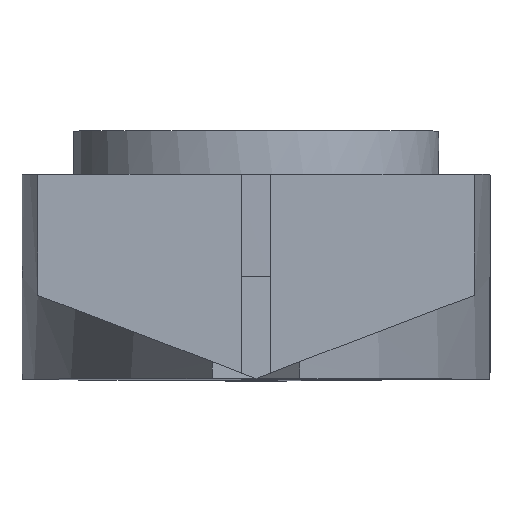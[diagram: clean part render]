
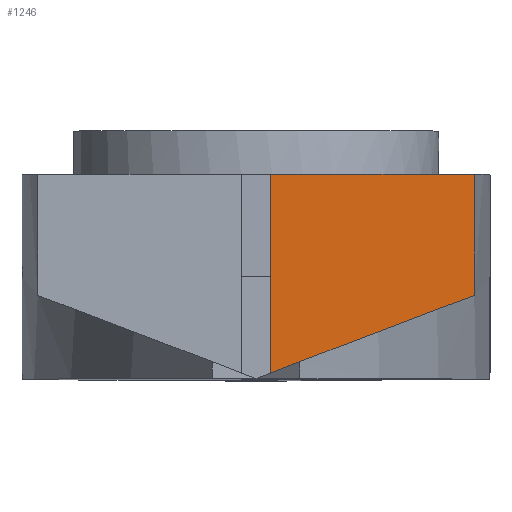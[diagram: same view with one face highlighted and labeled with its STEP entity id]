
A CAD part, top view. The second image highlights one B-rep face of the part: STEP entity #1246.
In plain terms, the highlighted planar face has unit normal (0, 0, 1).
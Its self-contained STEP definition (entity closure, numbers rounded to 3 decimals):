
#93=FACE_OUTER_BOUND('',#175,.T.);
#175=EDGE_LOOP('',(#868,#869,#870,#871));
#323=LINE('',#1921,#433);
#336=LINE('',#1958,#446);
#337=LINE('',#1960,#447);
#338=LINE('',#1961,#448);
#433=VECTOR('',#1509,10.);
#446=VECTOR('',#1538,10.);
#447=VECTOR('',#1539,10.);
#448=VECTOR('',#1540,10.);
#547=VERTEX_POINT('',#1918);
#548=VERTEX_POINT('',#1920);
#564=VERTEX_POINT('',#1957);
#565=VERTEX_POINT('',#1959);
#664=EDGE_CURVE('',#547,#548,#323,.T.);
#682=EDGE_CURVE('',#547,#564,#336,.T.);
#683=EDGE_CURVE('',#565,#564,#337,.T.);
#684=EDGE_CURVE('',#548,#565,#338,.T.);
#868=ORIENTED_EDGE('',*,*,#682,.T.);
#869=ORIENTED_EDGE('',*,*,#683,.F.);
#870=ORIENTED_EDGE('',*,*,#684,.F.);
#871=ORIENTED_EDGE('',*,*,#664,.F.);
#1203=PLANE('',#1347);
#1246=ADVANCED_FACE('',(#93),#1203,.F.);
#1347=AXIS2_PLACEMENT_3D('',#1956,#1536,#1537);
#1509=DIRECTION('',(1.,0.,0.));
#1536=DIRECTION('center_axis',(0.,0.,-1.));
#1537=DIRECTION('ref_axis',(-1.,0.,0.));
#1538=DIRECTION('',(0.,-1.,0.));
#1539=DIRECTION('',(-0.934,-0.358,0.));
#1540=DIRECTION('',(0.,-1.,0.));
#1918=CARTESIAN_POINT('',(0.5,7.,15.5));
#1920=CARTESIAN_POINT('',(7.464,7.,15.5));
#1921=CARTESIAN_POINT('',(1.781,7.,15.5));
#1956=CARTESIAN_POINT('Origin',(3.562,4.123,15.5));
#1957=CARTESIAN_POINT('',(0.5,0.192,15.5));
#1958=CARTESIAN_POINT('',(0.5,7.,15.5));
#1959=CARTESIAN_POINT('',(7.464,2.865,15.5));
#1960=CARTESIAN_POINT('',(0.,0.,15.5));
#1961=CARTESIAN_POINT('',(7.464,7.,15.5));
